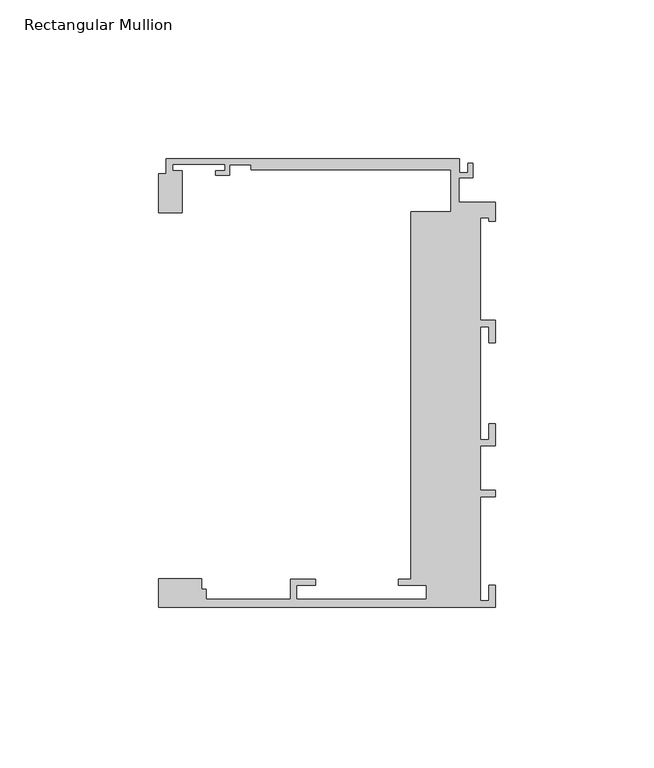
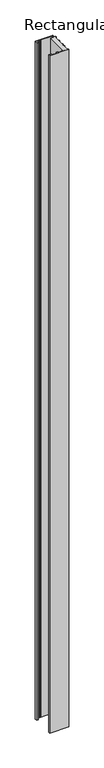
"""IFC4 building model written with IfcOpenShell, lengths in millimetres: member geometry, Rectangular Mullion : Danpal_K12_End-Mullion_B1."""

from ifc_helpers import new_model, si_unit, frame, origin, place, context, project, spatial, polyline, outline, extrude, source, transform, mapped, element, save


def rectangular_mullion_01f2946b(model_context):
    return source(origin(), model_context, "Body", "SweptSolid", [
        extrude(outline(polyline([(-26.6209612, -117.8676658), (-26.6209612, -1.9446289), (-14.1055875, -1.9446289), (-14.1055875, 11.3051512), (-77.1531178, 11.3051512), (-77.1531178, 12.8051513), (-83.8999976, 12.8051513), (-83.8999976, 9.5051512), (-88.3999976, 9.5051512), (-88.3999976, 11.0051513), (-85.3999976, 11.0051513), (-85.3999976, 13.0051512), (-101.8999976, 13.0051512), (-101.8999976, 11.0051513), (-98.8999976, 11.0051513), (-98.8999976, -2.316674), (-106.4117426, -2.316674), (-106.4117426, 10.065304), (-103.8999976, 10.065304), (-103.8999976, 14.8051514), (-11.4019537, 14.8051514), (-11.4019537, 10.3006425), (-8.6518595, 10.3006425), (-8.6518595, 13.3051514), (-7.1518595, 13.3051514), (-7.1518595, 8.8006425), (-11.6055875, 8.8006425), (-11.6055875, 1.0551514), (0.0, 1.0551514), (0.0, -4.9448486), (-2.0, -4.9448486), (-2.0, -3.9448486), (-4.8, -3.9448486), (-4.8, -36.2443486), (0.0, -36.2443486), (0.0, -43.2443486), (-2.0, -43.2443486), (-2.0, -38.2443486), (-4.8, -38.2443486), (-4.8, -73.8676657), (-2.0, -73.8676657), (-2.0, -68.8676657), (0.0, -68.8676657), (0.0, -75.867683), (-4.8, -75.867683), (-4.8, -89.8676485), (0.0, -89.8676485), (0.0, -91.8676485), (-4.8, -91.8676485), (-4.8, -124.7676657), (-2.0, -124.7676657), (-2.0, -119.7676657), (0.0, -119.7676657), (0.0, -126.7676657), (-106.4117426, -126.7676657), (-106.4117426, -117.6986749), (-92.8228167, -117.6986749), (-92.8228167, -121.0676175), (-91.2900275, -121.0676175), (-91.2900275, -124.2676658), (-64.7350275, -124.2676658), (-64.7350275, -117.8676658), (-56.7350275, -117.8676658), (-56.7350275, -119.8676658), (-62.7350275, -119.8676658), (-62.7350275, -124.2676658), (-21.835, -124.2676658), (-21.835, -119.8676658), (-30.6, -119.8676658), (-30.6, -117.8676658), (-26.6209612, -117.8676658)])), frame((0.0, 0.0, -4000.0), z_axis=(0.0, 0.0, 1.0), x_axis=(1.0, 0.0, 0.0)), (0.0, 0.0, 1.0), 4000.0),
    ])


if __name__ == "__main__":
    model = new_model("IFC4")
    model_context = context("Model", 3, world=origin())
    ifc_project = project(units=[si_unit("LENGTHUNIT", "METRE", prefix="MILLI")], contexts=[model_context])
    site = spatial("IfcSite", under=ifc_project)
    building = spatial("IfcBuilding", under=site)
    placement = place(None, origin())
    rectangular_mullion_shape = rectangular_mullion_01f2946b(model_context)
    element("IfcMember", 1, ObjectType="Rectangular Mullion : Danpal_K12_End-Mullion_B1", at=placement, inside=building, context=model_context, shape_type="MappedRepresentation", body=[
        mapped(rectangular_mullion_shape, transform((0.0, 0.0, 0.0), x_axis=(1.0, 0.0, 0.0), y_axis=(0.0, 1.0, 0.0), z_axis=(0.0, 0.0, 1.0))),
    ])
    save(model, "model.ifc")
